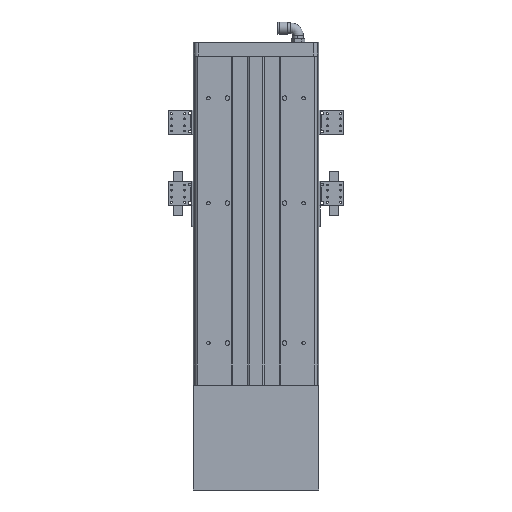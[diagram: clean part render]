
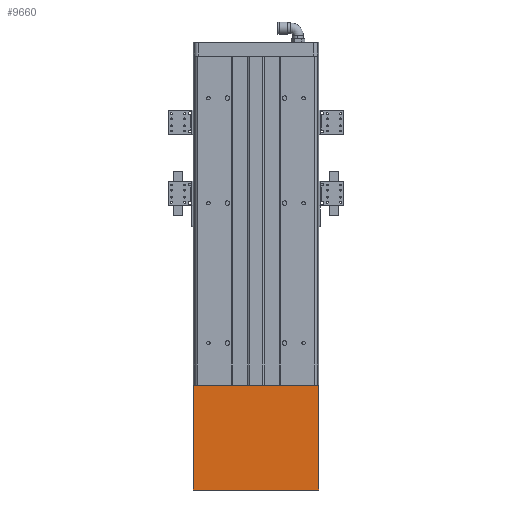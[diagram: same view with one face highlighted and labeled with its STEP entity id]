
A CAD part, front view. The second image highlights one B-rep face of the part: STEP entity #9660.
In plain terms, the highlighted planar face has unit normal (0, -1, 0).
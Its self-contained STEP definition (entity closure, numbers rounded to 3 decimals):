
#9639 = VERTEX_POINT ( 'NONE', #29160 ) ;
#9643 = VERTEX_POINT ( 'NONE', #29149 ) ;
#9658 = ORIENTED_EDGE ( 'NONE', *, *, #9659, .T. ) ;
#9659 = EDGE_CURVE ( 'NONE', #9639, #9667, #29982, .T. ) ;
#9660 = ADVANCED_FACE ( 'NONE', ( #29984 ), #29983, .F. ) ;
#9662 = EDGE_LOOP ( 'NONE', ( #9658, #9668, #9890, #9888 ) ) ;
#9667 = VERTEX_POINT ( 'NONE', #30029 ) ;
#9668 = ORIENTED_EDGE ( 'NONE', *, *, #9905, .F. ) ;
#9750 = EDGE_CURVE ( 'NONE', #9643, #9639, #34352, .T. ) ;
#9888 = ORIENTED_EDGE ( 'NONE', *, *, #9750, .T. ) ;
#9890 = ORIENTED_EDGE ( 'NONE', *, *, #9891, .F. ) ;
#9891 = EDGE_CURVE ( 'NONE', #9643, #9906, #31576, .T. ) ;
#9905 = EDGE_CURVE ( 'NONE', #9906, #9667, #31622, .T. ) ;
#9906 = VERTEX_POINT ( 'NONE', #31467 ) ;
#29149 = CARTESIAN_POINT ( 'NONE',  ( -93.271, -28.22, -465. ) ) ;
#29160 = CARTESIAN_POINT ( 'NONE',  ( -93.271, -28.22, -615. ) ) ;
#29980 = VECTOR ( 'NONE', #29985, 1000. ) ;
#29981 = CARTESIAN_POINT ( 'NONE',  ( -93.271, -28.22, -615. ) ) ;
#29982 = LINE ( 'NONE', #29981, #29980 ) ;
#29983 = PLANE ( 'NONE',  #30024 ) ;
#29984 = FACE_OUTER_BOUND ( 'NONE', #9662, .T. ) ;
#29985 = DIRECTION ( 'NONE',  ( 1., 0., 0. ) ) ;
#29987 = DIRECTION ( 'NONE',  ( 0., 0., 1. ) ) ;
#29990 = CARTESIAN_POINT ( 'NONE',  ( -93.271, -28.22, -465. ) ) ;
#30024 = AXIS2_PLACEMENT_3D ( 'NONE', #29990, #30028, #29987 ) ;
#30028 = DIRECTION ( 'NONE',  ( 0., 1., 0. ) ) ;
#30029 = CARTESIAN_POINT ( 'NONE',  ( 86.729, -28.22, -615. ) ) ;
#31467 = CARTESIAN_POINT ( 'NONE',  ( 86.729, -28.22, -465. ) ) ;
#31468 = DIRECTION ( 'NONE',  ( 0., 0., -1. ) ) ;
#31469 = VECTOR ( 'NONE', #31468, 1000. ) ;
#31573 = DIRECTION ( 'NONE',  ( 1., 0., 0. ) ) ;
#31574 = VECTOR ( 'NONE', #31573, 1000. ) ;
#31575 = CARTESIAN_POINT ( 'NONE',  ( -93.271, -28.22, -465. ) ) ;
#31576 = LINE ( 'NONE', #31575, #31574 ) ;
#31622 = LINE ( 'NONE', #31630, #31469 ) ;
#31630 = CARTESIAN_POINT ( 'NONE',  ( 86.729, -28.22, -465. ) ) ;
#34347 = DIRECTION ( 'NONE',  ( 0., 0., -1. ) ) ;
#34349 = VECTOR ( 'NONE', #34347, 1000. ) ;
#34351 = CARTESIAN_POINT ( 'NONE',  ( -93.271, -28.22, -465. ) ) ;
#34352 = LINE ( 'NONE', #34351, #34349 ) ;
